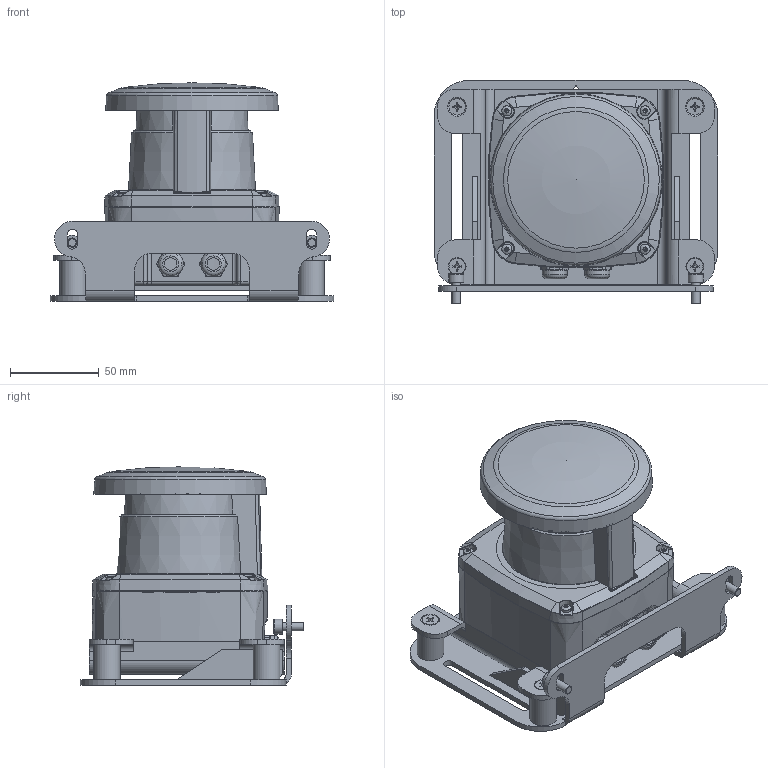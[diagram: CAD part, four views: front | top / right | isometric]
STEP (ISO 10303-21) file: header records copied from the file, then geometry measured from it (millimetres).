
FILE_DESCRIPTION(/* description */ (''),/* implementation_level */ '2;1');
FILE_NAME(/* name */ 'KLM-CZ_asm.stp',/* time_stamp */ '2025-08-06T18:11:24+08:00',/* author */ (''),/* organization */ (''),/* preprocessor_version */ 'ST-DEVELOPER v16',/* originating_system */ 'SIEMENS PLM Software NX 10.0',/* authorisation */ '');
FILE_SCHEMA (('AP203_CONFIGURATION_CONTROLLED_3D_DESIGN_OF_MECHANICAL_PARTS_AND_ASSEMBLIES_MIM_LF { 1 0 10303 403 2 1 2}'));
Length unit declared in the file: millimetre
Products named in the file (1): JSB-34C87966jyne
Bounding box: 160 x 126 x 123.07 mm (x, y, z)
Volume: 317784.1 mm3; surface area: 247163.3 mm2
Topology: 42 solids, 42 shells, 2906 faces, 7197 edges, 4406 vertices
Faces by surface type: plane 1151, bspline 505, cylinder 468, cone 451, torus 203, extrusion 81, sphere 47
Full cylindrical faces by diameter (mm): 1.25 x3, 1.3 x1, 1.5 x1, 1.7 x1, 2.5 x8, 2.72 x4, 2.874 x4, 4.02 x2, 4.2 x4, 4.826 x14, 5.6 x4, 6 x16, 7 x4, 8.5 x2, 9.3 x12, 10 x4, 10.5 x2, 12 x4, 14 x4, 15 x4, 19 x1, 21 x1
Entity records: 151032 total; most frequent: CARTESIAN_POINT 79880, ORIENTED_EDGE 13426, DIRECTION 11476, EDGE_CURVE 6713, VERTEX_POINT 4312, AXIS2_PLACEMENT_3D 4238, EDGE_LOOP 3399, VECTOR 3000
